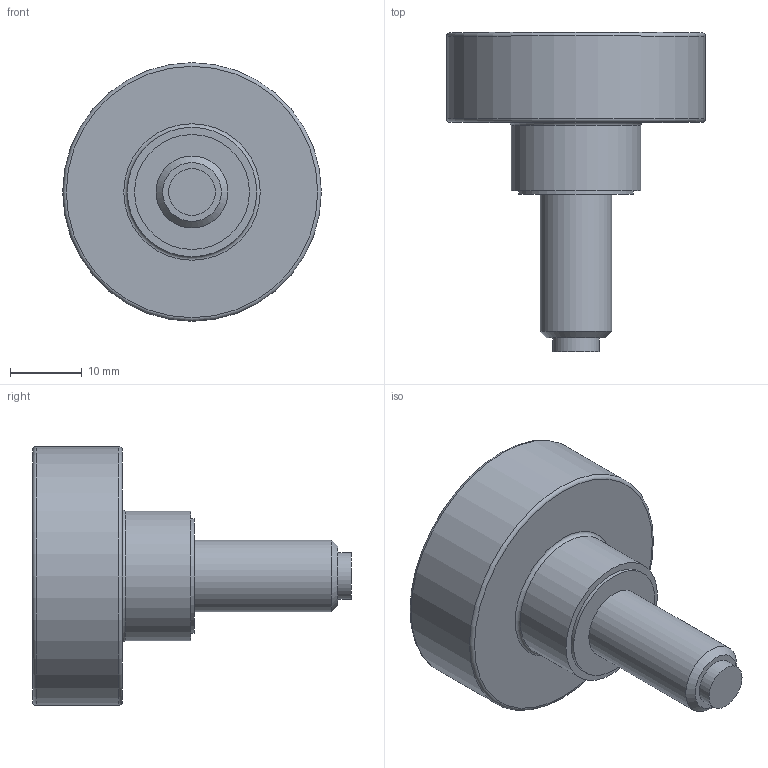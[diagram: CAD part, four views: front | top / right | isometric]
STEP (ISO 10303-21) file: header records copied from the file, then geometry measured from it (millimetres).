
FILE_DESCRIPTION( ( 'STEP AP203' ), '1' );
FILE_NAME( 'C:/Temp/Ganter_Step_05_03_2020/data/2_2/gn_421_10/Hollow knurled knob, with tip GN 421.10-M10-20-KU.stp', '2020-03-05T12:25:36', ( 'License CC BY-ND 4.0' ), ( 'CADENAS' ), ' ', 'PARTsolutions', ' ' );
FILE_SCHEMA( ( 'CONFIG_CONTROL_DESIGN' ) );
Length unit declared in the file: millimetre
Products named in the file (1): _Hollow knurled knob, with tip GN 421.10-M10-20-KU
Bounding box: 36 x 44.4 x 36 mm (x, y, z)
Volume: 10885 mm3; surface area: 5503.3 mm2
Topology: 1 solids, 1 shells, 19 faces, 30 edges, 19 vertices
Faces by surface type: plane 8, cylinder 7, torus 3, cone 1
Full cylindrical faces by diameter (mm): 6.5 x1, 10 x1, 14 x1, 16 x1, 18 x1, 31 x1, 36 x1
Entity records: 418 total; most frequent: DIRECTION 76, CARTESIAN_POINT 56, AXIS2_PLACEMENT_3D 38, EDGE_LOOP 36, ORIENTED_EDGE 36, FACE_OUTER_BOUND 29, ADVANCED_FACE 19, EDGE_CURVE 18
